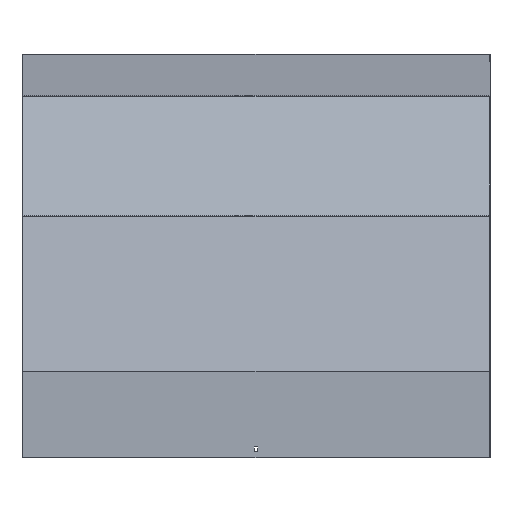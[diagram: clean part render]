
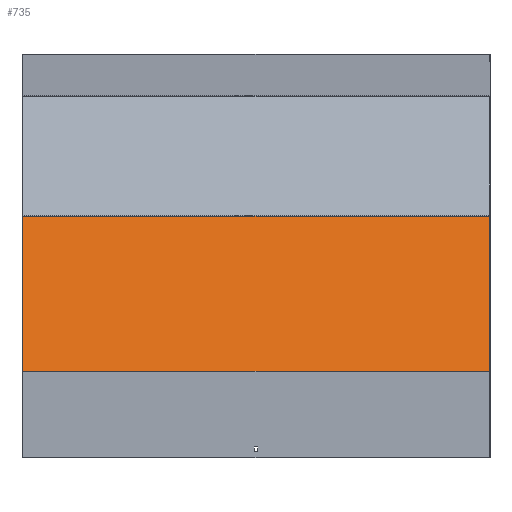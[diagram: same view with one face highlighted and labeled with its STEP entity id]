
A CAD part, top view. The second image highlights one B-rep face of the part: STEP entity #735.
In plain terms, the highlighted planar face has unit normal (0, 0.259, 0.966).
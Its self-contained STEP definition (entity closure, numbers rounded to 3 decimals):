
#50 = VERTEX_POINT ( 'NONE', #942 ) ;
#66 = CARTESIAN_POINT ( 'NONE',  ( 451.5, -292.929, 699.467 ) ) ;
#99 = DIRECTION ( 'NONE',  ( 0., -0.259, -0.966 ) ) ;
#127 = EDGE_CURVE ( 'NONE', #438, #477, #511, .T. ) ;
#163 = DIRECTION ( 'NONE',  ( 0., -0.966, 0.259 ) ) ;
#167 = LINE ( 'NONE', #599, #478 ) ;
#202 = DIRECTION ( 'NONE',  ( 0., 0.966, -0.259 ) ) ;
#233 = CARTESIAN_POINT ( 'NONE',  ( 451.5, -593.325, 779.958 ) ) ;
#414 = CARTESIAN_POINT ( 'NONE',  ( 451.5, -292.929, 699.467 ) ) ;
#423 = EDGE_CURVE ( 'NONE', #438, #50, #503, .T. ) ;
#438 = VERTEX_POINT ( 'NONE', #414 ) ;
#476 = VERTEX_POINT ( 'NONE', #681 ) ;
#477 = VERTEX_POINT ( 'NONE', #540 ) ;
#478 = VECTOR ( 'NONE', #163, 1000. ) ;
#484 = VECTOR ( 'NONE', #578, 1000. ) ;
#487 = DIRECTION ( 'NONE',  ( -1., 0., 0. ) ) ;
#503 = LINE ( 'NONE', #66, #798 ) ;
#511 = LINE ( 'NONE', #699, #1016 ) ;
#540 = CARTESIAN_POINT ( 'NONE',  ( 451.5, -593.325, 779.958 ) ) ;
#550 = ORIENTED_EDGE ( 'NONE', *, *, #685, .F. ) ;
#578 = DIRECTION ( 'NONE',  ( -1., 0., 0. ) ) ;
#599 = CARTESIAN_POINT ( 'NONE',  ( -451.5, -298.106, 700.854 ) ) ;
#612 = DIRECTION ( 'NONE',  ( 0., -0.966, 0.259 ) ) ;
#681 = CARTESIAN_POINT ( 'NONE',  ( -451.5, -593.325, 779.958 ) ) ;
#685 = EDGE_CURVE ( 'NONE', #477, #476, #1015, .T. ) ;
#699 = CARTESIAN_POINT ( 'NONE',  ( 451.5, -298.106, 700.854 ) ) ;
#732 = ORIENTED_EDGE ( 'NONE', *, *, #127, .F. ) ;
#735 = ADVANCED_FACE ( 'NONE', ( #810 ), #1063, .F. ) ;
#747 = ORIENTED_EDGE ( 'NONE', *, *, #1039, .T. ) ;
#774 = EDGE_LOOP ( 'NONE', ( #747, #550, #732, #804 ) ) ;
#798 = VECTOR ( 'NONE', #487, 1000. ) ;
#804 = ORIENTED_EDGE ( 'NONE', *, *, #423, .T. ) ;
#810 = FACE_OUTER_BOUND ( 'NONE', #774, .T. ) ;
#942 = CARTESIAN_POINT ( 'NONE',  ( -451.5, -292.929, 699.467 ) ) ;
#970 = CARTESIAN_POINT ( 'NONE',  ( 451.5, -298.106, 700.854 ) ) ;
#1015 = LINE ( 'NONE', #233, #484 ) ;
#1016 = VECTOR ( 'NONE', #612, 1000. ) ;
#1039 = EDGE_CURVE ( 'NONE', #50, #476, #167, .T. ) ;
#1049 = AXIS2_PLACEMENT_3D ( 'NONE', #970, #99, #202 ) ;
#1063 = PLANE ( 'NONE',  #1049 ) ;
